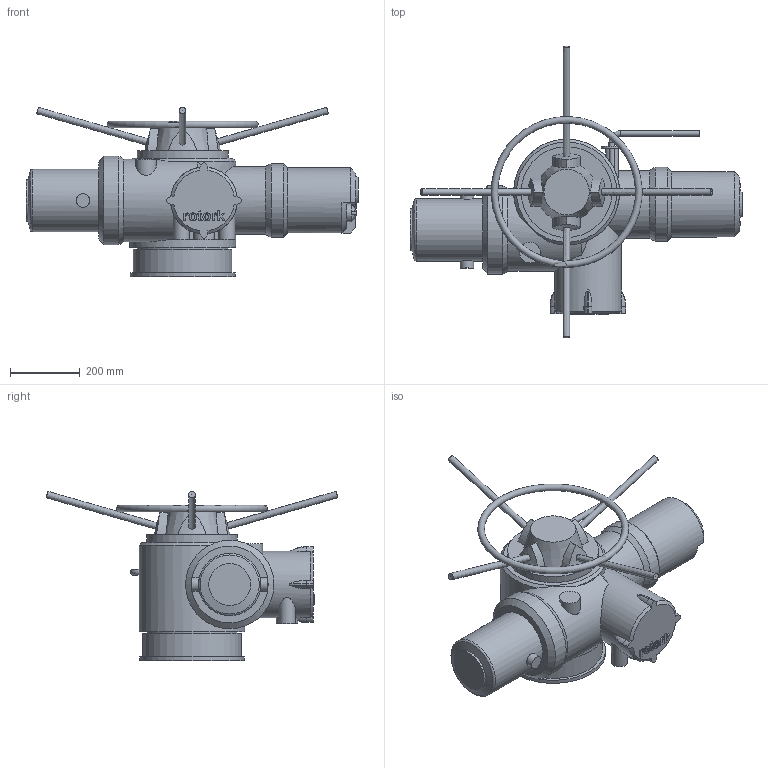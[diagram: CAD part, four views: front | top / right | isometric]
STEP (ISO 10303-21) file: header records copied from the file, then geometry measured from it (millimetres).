
FILE_DESCRIPTION( ( 'Unknown' ), '1' );
FILE_NAME( 'S:/System/Symlibrary/Actuators-Web/IQ/IQ40_THW-1.stp', 'May 2003', ( 'Paul Exton' ), ( 'Rotork Controls Ltd' ), 'XStep 1.0', 'Solid Edge V12 (12.00.05.02)', ' ' );
FILE_SCHEMA( ( 'automotive_design' ) );
Length unit declared in the file: millimetre
Products named in the file (1): 1
Bounding box: 949.7 x 834.88 x 484.17 mm (x, y, z)
Volume: 54775714 mm3; surface area: 1357153.8 mm2
Topology: 1 solids, 1 shells, 279 faces, 715 edges, 470 vertices
Faces by surface type: plane 121, cylinder 78, extrusion 33, cone 29, torus 15, bspline 2, sphere 1
Full cylindrical faces by diameter (mm): 14 x8, 16 x2, 38 x2, 50.5 x2, 59 x1, 61 x2, 120 x1, 148 x1, 178 x1, 187 x1, 191 x1, 194 x1, 212 x1, 237 x1, 253 x1, 260 x2, 282 x1, 300 x1, 303 x1
Entity records: 10688 total; most frequent: CARTESIAN_POINT 4523, ORIENTED_EDGE 1256, DIRECTION 1130, EDGE_CURVE 628, VERTEX_POINT 444, AXIS2_PLACEMENT_3D 410, EDGE_LOOP 370, FACE_OUTER_BOUND 311
